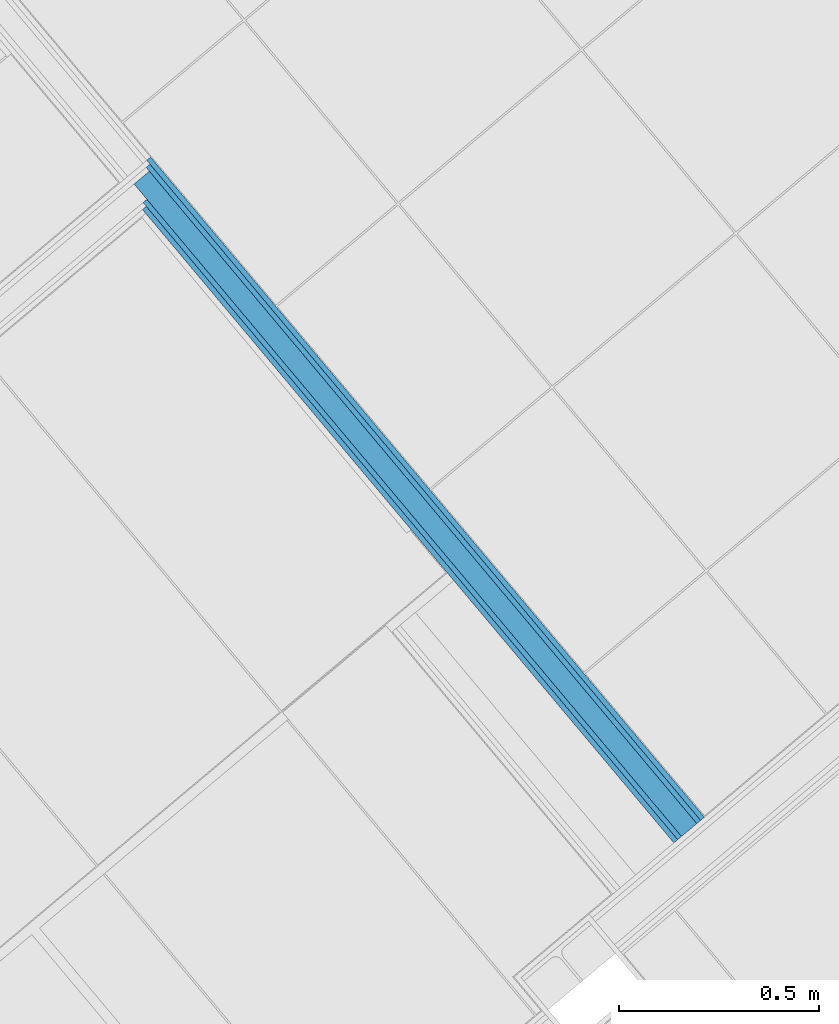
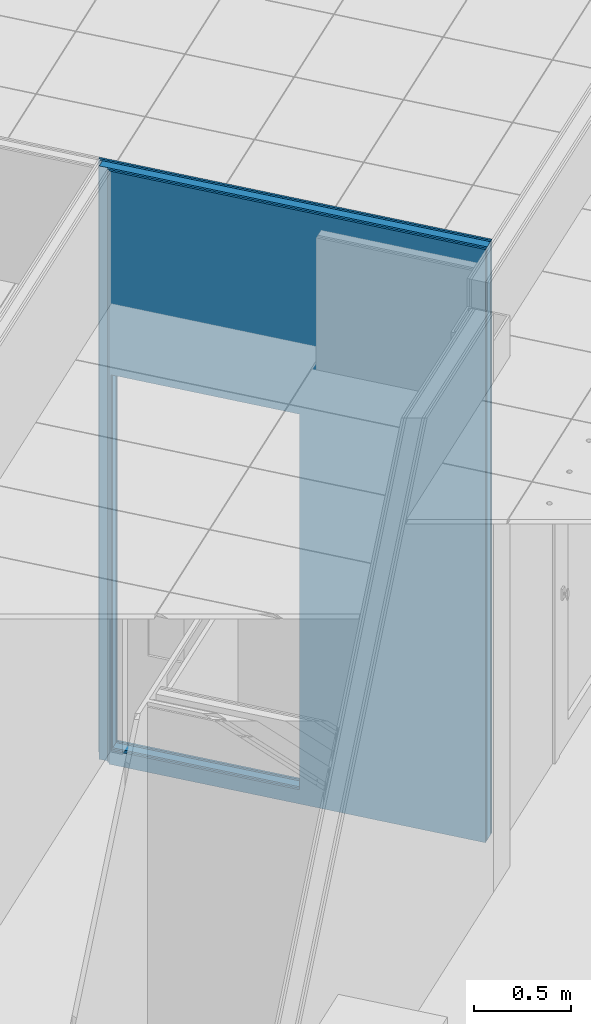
# One storey, part 23 of 338: 5 building element parts, 1 opening, 1 element without a shape of its own.
"""IFC2X3 building model written with IfcOpenShell, lengths in millimetres."""

from ifc_helpers import new_model, entity, si_unit, converted_unit, derived_unit, money_unit, direction, frame, origin_with_axes, place, context, subcontext, project, spatial, faceted_brep, material, type_object, element, aggregate, save


model = new_model("IFC2X3")

# Units and contexts
model_context = context("Model", 3, precision=0.01, world=origin_with_axes(), true_north=direction((0.0, 1.0)))
plan_context = context("Plan", 3, precision=0.01, world=origin_with_axes(), true_north=direction((0.0, 1.0)))
body_context = subcontext(model_context, "Body", "Model", "MODEL_VIEW")
ifc_project = project(units=[si_unit("LENGTHUNIT", "METRE", prefix="MILLI"), si_unit("AREAUNIT", "SQUARE_METRE"), si_unit("VOLUMEUNIT", "CUBIC_METRE"), converted_unit("PLANEANGLEUNIT", "DEGREE", entity("IfcPlaneAngleMeasure", 0.0174532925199), si_unit("PLANEANGLEUNIT", "RADIAN"), dimensions=[0, 0, 0, 0, 0, 0, 0]), money_unit("EUR"), converted_unit("TIMEUNIT", "Year", entity("IfcTimeMeasure", 31556926.0), si_unit("TIMEUNIT", "SECOND"), dimensions=[0, 0, 1, 0, 0, 0, 0]), si_unit("MASSUNIT", "GRAM", prefix="KILO"), si_unit("THERMODYNAMICTEMPERATUREUNIT", "DEGREE_CELSIUS"), si_unit("LUMINOUSINTENSITYUNIT", "LUMEN"), si_unit("ENERGYUNIT", "JOULE", prefix="MEGA"), derived_unit("THERMALCONDUCTANCEUNIT", [(si_unit("POWERUNIT", "WATT"), 1), (si_unit("LENGTHUNIT", "METRE"), -1), (si_unit("THERMODYNAMICTEMPERATUREUNIT", "KELVIN"), -1)]), derived_unit("SPECIFICHEATCAPACITYUNIT", [(si_unit("ENERGYUNIT", "JOULE"), 1), (si_unit("MASSUNIT", "GRAM", prefix="KILO"), -1), (si_unit("THERMODYNAMICTEMPERATUREUNIT", "KELVIN"), -1)]), derived_unit("MASSDENSITYUNIT", [(si_unit("MASSUNIT", "GRAM", prefix="KILO"), 1), (si_unit("VOLUMEUNIT", "CUBIC_METRE"), -1)])], contexts=[model_context, plan_context])

# Site, building, storey
site_placement = place(None, origin_with_axes())
site = spatial("IfcSite", under=ifc_project, at=site_placement, Name="Fortuinstraat Woensdrecht", CompositionType="ELEMENT")
building_placement = place(site_placement, origin_with_axes())
building = spatial("IfcBuilding", under=site, at=building_placement, Name="IKC Fortuna", CompositionType="ELEMENT")
storey_placement = place(building_placement, origin_with_axes())
storey = spatial("IfcBuildingStorey", under=building, at=storey_placement, Name="00 begane grond", CompositionType="ELEMENT", Elevation=0.0)

# Wall, opening, building element parts
wall_type = type_object("IfcWallType", Name="MS100 2.50.2A 100", PredefinedType="NOTDEFINED")
wall_placement = place(storey_placement, frame((12698.6513865, -8366.30862162, 1360.0), z_axis=(0.0, 0.0, 1.0), x_axis=(-0.642787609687, 0.766044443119, 0.0)))
wall = element("IfcWall", 1, at=wall_placement, inside=storey, type_object=wall_type, Name="22_Wand_Binnenwand")
opening_placement = place(wall_placement, frame((1665.50002114, 0.0, 90.0), z_axis=(0.0, 0.0, 1.0), x_axis=(1.0, 0.0, 0.0)))
element("IfcOpeningElement", 2, at=opening_placement, cuts=wall, Name="32_Deur_h.01d", context=body_context, shape_type="Brep", body=[
    faceted_brep([(-517.0, 100.0, 2367.0), (-517.0, 100.0, 0.0), (-517.0, -200.0, 0.0), (-517.0, -200.0, 2367.0), (517.0, 100.0, 2367.0), (517.0, 100.0, 0.0), (517.0, -200.0, 0.0), (517.0, -200.0, 2367.0)], [[[0, 1, 2, 3]], [[0, 4, 5, 1]], [[1, 5, 6, 2]], [[3, 2, 6, 7]], [[4, 0, 3, 7]], [[5, 4, 7, 6]]]),
])
ifc_material_1 = material(Name="Gipsplaat")
building_element_part_1_placement = place(wall_placement, origin_with_axes())
building_element_part_1 = element("IfcBuildingElementPart", 3, at=building_element_part_1_placement, material=ifc_material_1, Name="Gipsplaat", context=body_context, shape_type="Brep", body=[
    faceted_brep([(125.0, 100.0, 0.0), (125.0, 100.0, 3740.0), (2195.00002114, 100.0, 3740.0), (2195.00002114, 100.0, 0.0), (2182.50002114, 100.0, 90.0), (2182.50002114, 100.0, 2457.0), (1148.50002114, 100.0, 2457.0), (1148.50002114, 100.0, 90.0), (125.0, 87.5, 0.0), (125.0, 87.5, 3740.0), (2195.00002114, 87.5, 3740.0), (2195.00002114, 87.5, 0.0), (2182.50002114, 87.5, 90.0), (2182.50002114, 87.5, 2457.0), (1148.50002114, 87.5, 2457.0), (1148.50002114, 87.5, 90.0)], [[[0, 1, 2, 3], [4, 5, 6, 7]], [[1, 0, 8, 9]], [[1, 9, 10, 2]], [[11, 3, 2, 10]], [[8, 0, 3, 11]], [[12, 13, 5, 4]], [[13, 14, 6, 5]], [[14, 15, 7, 6]], [[15, 12, 4, 7]], [[9, 8, 11, 10], [12, 15, 14, 13]]]),
])
building_element_part_2_placement = place(wall_placement, origin_with_axes())
building_element_part_2 = element("IfcBuildingElementPart", 4, at=building_element_part_2_placement, material=ifc_material_1, Name="Gipsplaat", context=body_context, shape_type="Brep", body=[
    faceted_brep([(125.0, 87.5, 0.0), (125.0, 87.5, 3740.0), (2207.50002114, 87.5, 3740.0), (2207.50002114, 87.5, 0.0), (2182.50002114, 87.5, 90.0), (2182.50002114, 87.5, 2457.0), (1148.50002114, 87.5, 2457.0), (1148.50002114, 87.5, 90.0), (125.0, 75.0, 0.0), (125.0, 75.0, 3740.0), (2207.50002114, 75.0, 3740.0), (2207.50002114, 75.0, 0.0), (2182.50002114, 75.0, 90.0), (2182.50002114, 75.0, 2457.0), (1148.50002114, 75.0, 2457.0), (1148.50002114, 75.0, 90.0)], [[[0, 1, 2, 3], [4, 5, 6, 7]], [[1, 0, 8, 9]], [[1, 9, 10, 2]], [[11, 3, 2, 10]], [[8, 0, 3, 11]], [[12, 13, 5, 4]], [[13, 14, 6, 5]], [[14, 15, 7, 6]], [[15, 12, 4, 7]], [[9, 8, 11, 10], [12, 15, 14, 13]]]),
])
ifc_material_2 = material(Name="Isolatie - Steenwol LSW")
building_element_part_3_placement = place(wall_placement, origin_with_axes())
building_element_part_3 = element("IfcBuildingElementPart", 5, at=building_element_part_3_placement, material=ifc_material_2, Name="Isolatie - Steenwol LSW", context=body_context, shape_type="Brep", body=[
    faceted_brep([(125.0, 75.0, 0.0), (125.0, 75.0, 3740.0), (2257.50002114, 75.0, 3740.0), (2257.50002114, 75.0, 0.0), (2182.50002114, 75.0, 90.0), (2182.50002114, 75.0, 2457.0), (1148.50002114, 75.0, 2457.0), (1148.50002114, 75.0, 90.0), (125.0, 25.0, 0.0), (125.0, 25.0, 3740.0), (2257.50002114, 25.0, 3740.0), (2257.50002114, 25.0, 0.0), (2182.50002114, 25.0, 90.0), (2182.50002114, 25.0, 2457.0), (1148.50002114, 25.0, 2457.0), (1148.50002114, 25.0, 90.0)], [[[0, 1, 2, 3], [4, 5, 6, 7]], [[1, 0, 8, 9]], [[1, 9, 10, 2]], [[11, 3, 2, 10]], [[8, 0, 3, 11]], [[12, 13, 5, 4]], [[13, 14, 6, 5]], [[14, 15, 7, 6]], [[15, 12, 4, 7]], [[9, 8, 11, 10], [12, 15, 14, 13]]]),
])
building_element_part_4_placement = place(wall_placement, origin_with_axes())
building_element_part_4 = element("IfcBuildingElementPart", 6, at=building_element_part_4_placement, material=ifc_material_1, Name="Gipsplaat", context=body_context, shape_type="Brep", body=[
    faceted_brep([(125.0, 25.0, 0.0), (125.0, 25.0, 3740.0), (2270.00002114, 25.0, 3740.0), (2270.00002114, 25.0, 0.0), (2182.50002114, 25.0, 90.0), (2182.50002114, 25.0, 2457.0), (1148.50002114, 25.0, 2457.0), (1148.50002114, 25.0, 90.0), (125.0, 12.5, 0.0), (125.0, 12.5, 3740.0), (2270.00002114, 12.5, 3740.0), (2270.00002114, 12.5, 0.0), (2182.50002114, 12.5, 90.0), (2182.50002114, 12.5, 2457.0), (1148.50002114, 12.5, 2457.0), (1148.50002114, 12.5, 90.0)], [[[0, 1, 2, 3], [4, 5, 6, 7]], [[1, 0, 8, 9]], [[1, 9, 10, 2]], [[11, 3, 2, 10]], [[8, 0, 3, 11]], [[12, 13, 5, 4]], [[13, 14, 6, 5]], [[14, 15, 7, 6]], [[15, 12, 4, 7]], [[9, 8, 11, 10], [12, 15, 14, 13]]]),
])
building_element_part_5_placement = place(wall_placement, origin_with_axes())
building_element_part_5 = element("IfcBuildingElementPart", 7, at=building_element_part_5_placement, material=ifc_material_1, Name="Gipsplaat", context=body_context, shape_type="Brep", body=[
    faceted_brep([(125.0, 12.5, 0.0), (125.0, 12.5, 3740.0), (2282.50002114, 12.5, 3740.0), (2282.50002114, 12.5, 0.0), (2182.50002114, 12.5, 90.0), (2182.50002114, 12.5, 2457.0), (1148.50002114, 12.5, 2457.0), (1148.50002114, 12.5, 90.0), (125.0, 0.0, 0.0), (125.0, 0.0, 3740.0), (2282.50002114, 0.0, 3740.0), (2282.50002114, 0.0, 0.0), (2182.50002114, 0.0, 90.0), (2182.50002114, 0.0, 2457.0), (1148.50002114, 0.0, 2457.0), (1148.50002114, 0.0, 90.0)], [[[0, 1, 2, 3], [4, 5, 6, 7]], [[1, 0, 8, 9]], [[1, 9, 10, 2]], [[11, 3, 2, 10]], [[8, 0, 3, 11]], [[12, 13, 5, 4]], [[13, 14, 6, 5]], [[14, 15, 7, 6]], [[15, 12, 4, 7]], [[9, 8, 11, 10], [12, 15, 14, 13]]]),
])
aggregate(wall, [building_element_part_1, building_element_part_2, building_element_part_3, building_element_part_4, building_element_part_5])

save(model, "model.ifc")
